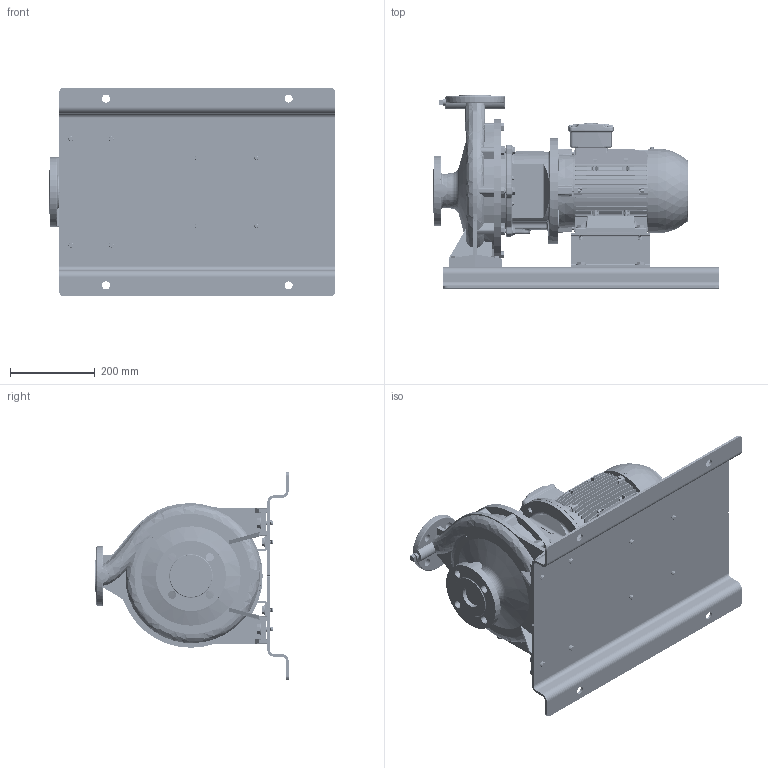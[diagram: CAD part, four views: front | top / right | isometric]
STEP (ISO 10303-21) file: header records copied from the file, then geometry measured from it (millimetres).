
FILE_DESCRIPTION (( 'STEP AP214' ), '1' );
FILE_NAME ('GSD4 32-250_2.2_(100L)_W21_BP.STEP', '2024-08-07T23:53:07', ( '' ), ( '' ), 'SwSTEP 2.0', 'SolidWorks 2019', '' );
FILE_SCHEMA (( 'AUTOMOTIVE_DESIGN' ));
Length unit declared in the file: millimetre
Products named in the file (10): 140 x 80 - 271472220; Parametric bolt_SFT-A249B; Parametric Flat Washer_M10; Parametric Flat Washer_M12; Parametric bolt_SFT-A299B; Parametric bolt_SFT-A253B; GSD4 32-250_2.2_(100L)_W21_BP; 32-250-100L_______; N5S5 GSDA-552 F1-1832915-00; 100L ALIE3_W21T_B35
Assembly tree (29 placements, depth 2):
  GSD4 32-250_2.2_(100L)_W21_BP
    32-250-100L_______
    100L ALIE3_W21T_B35
    N5S5 GSDA-552 F1-1832915-00
    140 x 80 - 271472220  x2
    Parametric bolt_SFT-A253B  x4
    Parametric bolt_SFT-A249B  x4
    Parametric bolt_SFT-A299B  x4
    Parametric Flat Washer_M10  x8
    Parametric Flat Washer_M12  x4
Bounding box: 675 x 455 x 490 mm (x, y, z)
Volume: 20592908.2 mm3; surface area: 2268245.4 mm2
Topology: 37 solids, 37 shells, 4475 faces, 11646 edges, 7487 vertices
Faces by surface type: plane 2442, cylinder 1201, torus 312, cone 252, bspline 250, sphere 18
Entity records: 182153 total; most frequent: CARTESIAN_POINT 86637, ORIENTED_EDGE 20612, DIRECTION 18562, EDGE_CURVE 10306, VERTEX_POINT 6631, LINE 6356, VECTOR 6356, AXIS2_PLACEMENT_3D 6103
